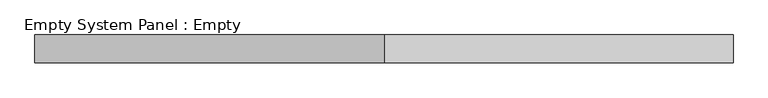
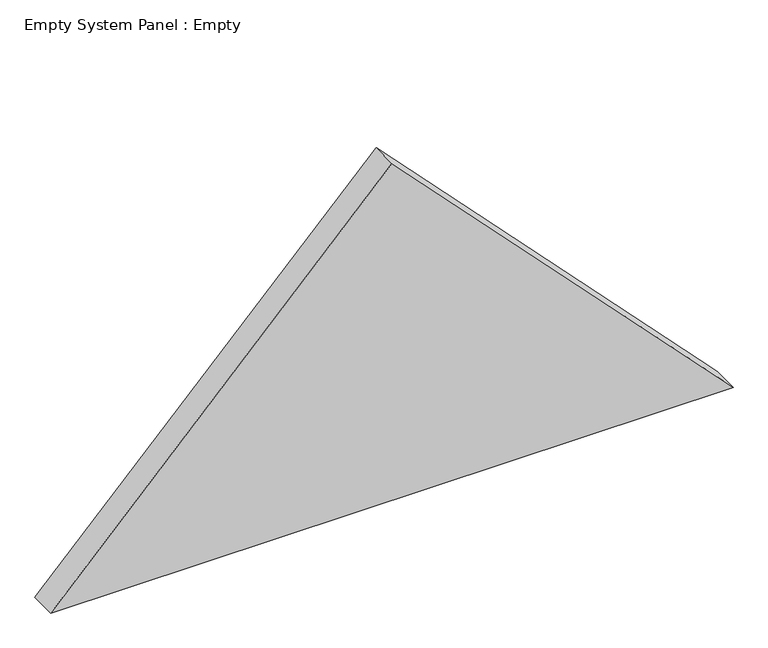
"""IFC4 building model written with IfcOpenShell, lengths in millimetres: plate geometry, Empty System Panel : Empty."""

from ifc_helpers import new_model, si_unit, frame, origin, place, context, project, spatial, polyline, outline, extrude, source, transform, mapped, element, save


def empty_system_panel_empty_b0d35594(model_context):
    return source(origin(), model_context, "Body", "SweptSolid", [
        extrude(outline(polyline([(0.0, -1250.0), (0.0, 1250.0), (1305.0383136, 0.0), (0.0, -1250.0)])), frame((0.0, -50.0, 0.0), z_axis=(0.0, 1.0, 0.0), x_axis=(0.0, 0.0, 1.0)), (0.0, 0.0, 1.0), 100.0),
    ])


if __name__ == "__main__":
    model = new_model("IFC4")
    model_context = context("Model", 3, world=origin())
    ifc_project = project(units=[si_unit("LENGTHUNIT", "METRE", prefix="MILLI")], contexts=[model_context])
    site = spatial("IfcSite", under=ifc_project)
    building = spatial("IfcBuilding", under=site)
    placement = place(None, origin())
    empty_system_panel_empty_shape = empty_system_panel_empty_b0d35594(model_context)
    element("IfcPlate", 1, ObjectType="Empty System Panel : Empty", at=placement, inside=building, context=model_context, shape_type="MappedRepresentation", body=[
        mapped(empty_system_panel_empty_shape, transform((0.0, 0.0, 0.0), x_axis=(1.0, 0.0, 0.0), y_axis=(0.0, 1.0, 0.0), z_axis=(0.0, 0.0, 1.0))),
    ])
    save(model, "model.ifc")
